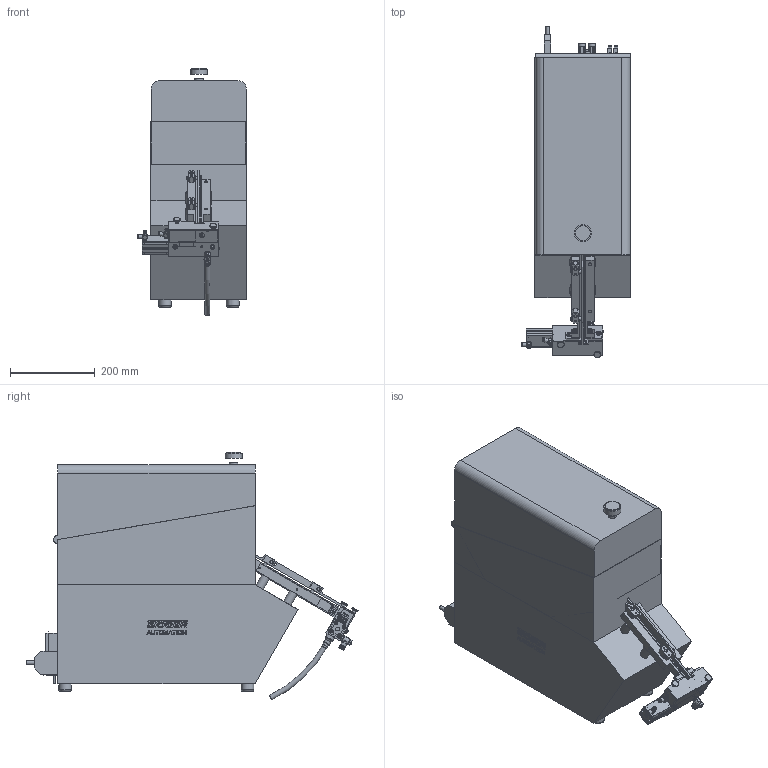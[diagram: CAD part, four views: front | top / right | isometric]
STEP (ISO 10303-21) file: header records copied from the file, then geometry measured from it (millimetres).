
FILE_DESCRIPTION(/* description */ ('© Copyright 2019 – Urheberrechtshinweis Diese CAD-Daten sind urheberrechtlich geschützt. Das Urheberrecht liegt, soweit nicht ausdrücklich anders gekennzeichnet, bei Stöger Automation GmbH. Bitte fragen Sie uns, falls Sie die CAD-Daten vervielfältigen oder','CAx-IF Rec.Pracs.---Representation and Presentation of Product Manufacturing Information (PMI)---4.0---2014-10-13'),/* implementation_level */ '2;1');
FILE_NAME(/* name */ 'H:\00_0 Arbeiten für Marketing\581425\3D_Step_file_INTEC_SG3H.stp',/* time_stamp */ '2020-07-03T10:18:01+02:00',/* author */ ('Stöger Automation GmbH'),/* organization */ ('Stöger Automation GmbH'),/* preprocessor_version */ 'ST-DEVELOPER v17',/* originating_system */ 'Autodesk Inventor 2018',/* authorisation */ '');
FILE_SCHEMA (('AP242_MANAGED_MODEL_BASED_3D_ENGINEERING_MIM_LF { 1 0 10303 442 1 1 4 }'));
Products named in the file (1): 581425
Bounding box: 258.4 x 782.48 x 584.45 mm (x, y, z)
Volume: 32860410.9 mm3; surface area: 1797402.7 mm2
Topology: 11 solids, 49 shells, 2279 faces, 6048 edges, 4000 vertices
Faces by surface type: plane 1363, cylinder 514, cone 207, bspline 149, torus 32, sphere 14
Full cylindrical faces by diameter (mm): 2 x9, 2.459 x2, 2.5 x4, 3.242 x18, 3.3 x6, 3.8 x2, 3.99 x4, 4 x31, 4.019 x6, 4.03 x7, 4.134 x6, 4.2 x2, 4.3 x6, 4.4 x6, 4.6 x3, 4.773 x1, 4.917 x2, 5 x7, 5.3 x2, 5.5 x2, 5.7 x2, 6 x4, 6.1 x2, 6.5 x1, 6.917 x2, 7 x14, 7.3 x2, 7.8 x6, 7.96 x2, 8 x17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
Entity records: 78641 total; most frequent: CARTESIAN_POINT 19709, ORIENTED_EDGE 12006, DIRECTION 11406, EDGE_CURVE 6003, VERTEX_POINT 3998, AXIS2_PLACEMENT_3D 3941, LINE 3524, VECTOR 3524
